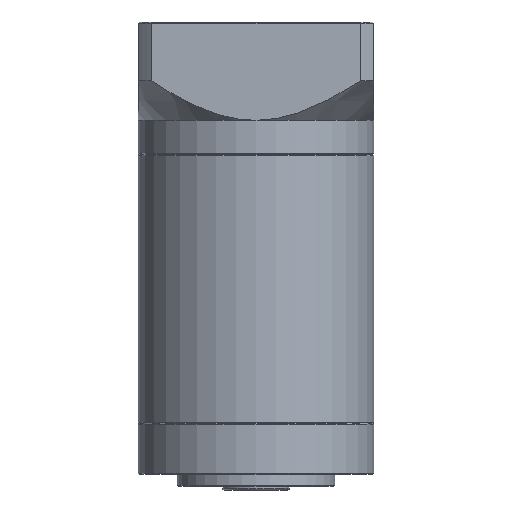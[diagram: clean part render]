
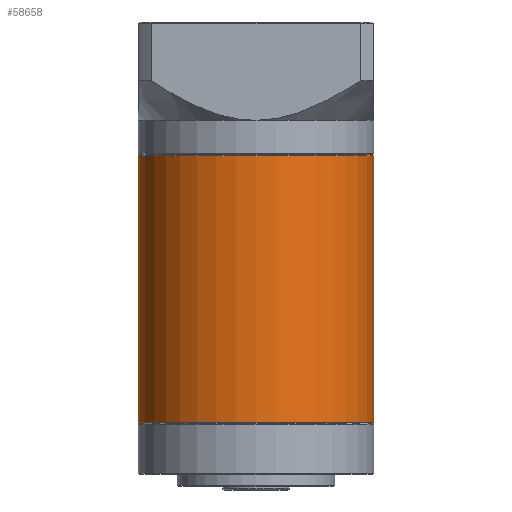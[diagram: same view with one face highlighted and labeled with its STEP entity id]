
A CAD part, front view. The second image highlights one B-rep face of the part: STEP entity #58658.
In plain terms, the highlighted cylindrical face has radius 30 mm (diameter 60 mm), a partial arc.
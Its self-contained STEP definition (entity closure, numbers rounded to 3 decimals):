
#4125 = EDGE_CURVE ( 'NONE', #77333, #4652, #33794, .T. ) ;
#4652 = VERTEX_POINT ( 'NONE', #47044 ) ;
#4825 = CIRCLE ( 'NONE', #74194, 30. ) ;
#12912 = VECTOR ( 'NONE', #14705, 1000. ) ;
#13477 = DIRECTION ( 'NONE',  ( 0., 0., 1. ) ) ;
#14496 = DIRECTION ( 'NONE',  ( -1., 0., 0. ) ) ;
#14522 = CARTESIAN_POINT ( 'NONE',  ( -40.553, 17.545, 5.031 ) ) ;
#14705 = DIRECTION ( 'NONE',  ( 0., 0., -1. ) ) ;
#15370 = CARTESIAN_POINT ( 'NONE',  ( -70.553, 17.545, 4.781 ) ) ;
#16907 = VERTEX_POINT ( 'NONE', #67090 ) ;
#21813 = ORIENTED_EDGE ( 'NONE', *, *, #82934, .T. ) ;
#22472 = DIRECTION ( 'NONE',  ( 1., 0., 0. ) ) ;
#26166 = CIRCLE ( 'NONE', #45109, 30. ) ;
#28327 = CARTESIAN_POINT ( 'NONE',  ( -70.553, 17.545, 5.031 ) ) ;
#29516 = CARTESIAN_POINT ( 'NONE',  ( -100.553, 17.545, 5.031 ) ) ;
#32401 = ORIENTED_EDGE ( 'NONE', *, *, #4125, .F. ) ;
#33794 = LINE ( 'NONE', #14522, #12912 ) ;
#38707 = EDGE_LOOP ( 'NONE', ( #32401, #72142, #21813, #50894 ) ) ;
#45109 = AXIS2_PLACEMENT_3D ( 'NONE', #15370, #64510, #22472 ) ;
#47044 = CARTESIAN_POINT ( 'NONE',  ( -40.553, 17.545, -63.019 ) ) ;
#50894 = ORIENTED_EDGE ( 'NONE', *, *, #59071, .T. ) ;
#51202 = VECTOR ( 'NONE', #85687, 1000. ) ;
#55546 = CARTESIAN_POINT ( 'NONE',  ( -70.553, 17.545, -63.019 ) ) ;
#57695 = AXIS2_PLACEMENT_3D ( 'NONE', #28327, #77407, #14496 ) ;
#58268 = CARTESIAN_POINT ( 'NONE',  ( -100.553, 17.545, -63.019 ) ) ;
#58658 = ADVANCED_FACE ( 'NONE', ( #61013 ), #70880, .T. ) ;
#59071 = EDGE_CURVE ( 'NONE', #72774, #4652, #4825, .T. ) ;
#61013 = FACE_OUTER_BOUND ( 'NONE', #38707, .T. ) ;
#62593 = DIRECTION ( 'NONE',  ( 1., 0., 0. ) ) ;
#64510 = DIRECTION ( 'NONE',  ( 0., 0., -1. ) ) ;
#64532 = CARTESIAN_POINT ( 'NONE',  ( -40.553, 17.545, 4.781 ) ) ;
#67090 = CARTESIAN_POINT ( 'NONE',  ( -100.553, 17.545, 4.781 ) ) ;
#70880 = CYLINDRICAL_SURFACE ( 'NONE', #57695, 30. ) ;
#72122 = EDGE_CURVE ( 'NONE', #77333, #16907, #26166, .T. ) ;
#72142 = ORIENTED_EDGE ( 'NONE', *, *, #72122, .T. ) ;
#72774 = VERTEX_POINT ( 'NONE', #58268 ) ;
#74194 = AXIS2_PLACEMENT_3D ( 'NONE', #55546, #13477, #62593 ) ;
#77333 = VERTEX_POINT ( 'NONE', #64532 ) ;
#77407 = DIRECTION ( 'NONE',  ( 0., 0., -1. ) ) ;
#82934 = EDGE_CURVE ( 'NONE', #16907, #72774, #88386, .T. ) ;
#85687 = DIRECTION ( 'NONE',  ( 0., 0., -1. ) ) ;
#88386 = LINE ( 'NONE', #29516, #51202 ) ;
